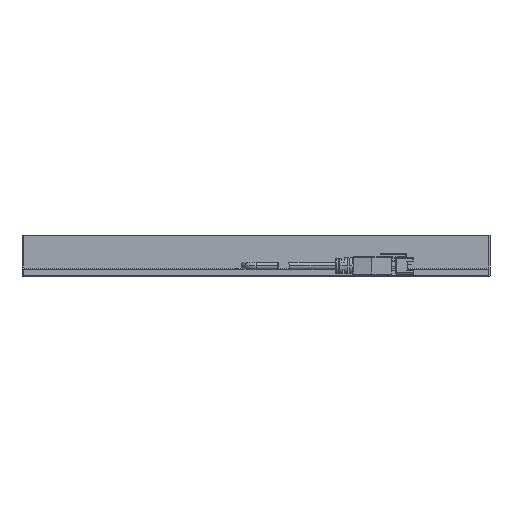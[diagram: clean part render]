
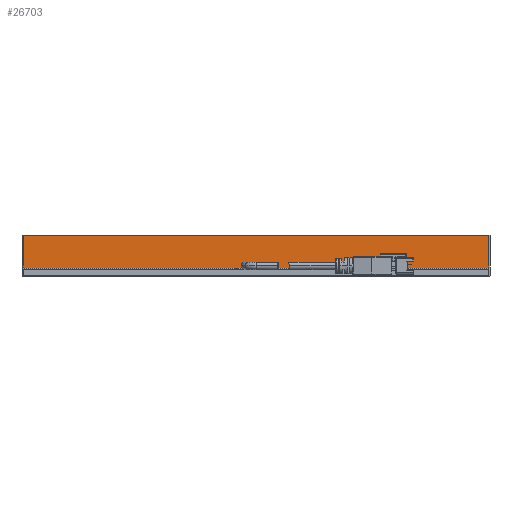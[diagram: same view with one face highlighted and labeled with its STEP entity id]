
A CAD part, front view. The second image highlights one B-rep face of the part: STEP entity #26703.
In plain terms, the highlighted planar face has unit normal (0, -1, 0).
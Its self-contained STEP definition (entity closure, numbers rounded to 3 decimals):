
#24326=DIRECTION('',(1.,0.,0.));
#24327=VECTOR('',#24326,100.75);
#24328=CARTESIAN_POINT('',(-106.5,-107.,0.));
#24329=LINE('',#24328,#24327);
#24376=DIRECTION('',(1.,0.,0.));
#24377=VECTOR('',#24376,110.75);
#24378=CARTESIAN_POINT('',(-4.25,-107.,0.));
#24379=LINE('',#24378,#24377);
#24648=DIRECTION('',(0.,0.,-1.));
#24649=VECTOR('',#24648,15.);
#24650=CARTESIAN_POINT('',(106.5,-107.,15.));
#24651=LINE('',#24650,#24649);
#24652=DIRECTION('',(0.,0.,1.));
#24653=VECTOR('',#24652,1.);
#24654=CARTESIAN_POINT('',(-4.25,-107.,0.));
#24655=LINE('',#24654,#24653);
#24656=CARTESIAN_POINT('',(-5.,-107.,1.));
#24657=DIRECTION('',(0.,-1.,0.));
#24658=DIRECTION('',(1.,0.,0.));
#24659=AXIS2_PLACEMENT_3D('',#24656,#24657,#24658);
#24661=DIRECTION('',(0.,0.,1.));
#24662=VECTOR('',#24661,1.);
#24663=CARTESIAN_POINT('',(-5.75,-107.,0.));
#24664=LINE('',#24663,#24662);
#24665=DIRECTION('',(0.,0.,-1.));
#24666=VECTOR('',#24665,15.);
#24667=CARTESIAN_POINT('',(-106.5,-107.,15.));
#24668=LINE('',#24667,#24666);
#25164=DIRECTION('',(1.,0.,0.));
#25165=VECTOR('',#25164,213.);
#25166=CARTESIAN_POINT('',(-106.5,-107.,15.));
#25167=LINE('',#25166,#25165);
#25808=CARTESIAN_POINT('',(-5.75,-107.,0.));
#25810=VERTEX_POINT('',#25808);
#25812=CARTESIAN_POINT('',(-4.25,-107.,0.));
#25814=VERTEX_POINT('',#25812);
#25816=CARTESIAN_POINT('',(-5.75,-107.,1.));
#25817=VERTEX_POINT('',#25816);
#25818=CARTESIAN_POINT('',(-4.25,-107.,1.));
#25819=VERTEX_POINT('',#25818);
#25945=CARTESIAN_POINT('',(106.5,-107.,0.));
#25947=VERTEX_POINT('',#25945);
#25948=CARTESIAN_POINT('',(106.5,-107.,15.));
#25949=VERTEX_POINT('',#25948);
#25952=CARTESIAN_POINT('',(-106.5,-107.,0.));
#25954=VERTEX_POINT('',#25952);
#25958=CARTESIAN_POINT('',(-106.5,-107.,15.));
#25959=VERTEX_POINT('',#25958);
#26683=CARTESIAN_POINT('',(-107.,-107.,0.));
#26684=DIRECTION('',(0.,-1.,0.));
#26685=DIRECTION('',(1.,0.,0.));
#26686=AXIS2_PLACEMENT_3D('',#26683,#26684,#26685);
#26687=PLANE('',#26686);
#26688=ORIENTED_EDGE('',*,*,#26675,.T.);
#26689=ORIENTED_EDGE('',*,*,#26015,.F.);
#26691=ORIENTED_EDGE('',*,*,#26690,.T.);
#26693=ORIENTED_EDGE('',*,*,#26692,.T.);
#26695=ORIENTED_EDGE('',*,*,#26694,.F.);
#26696=ORIENTED_EDGE('',*,*,#25983,.F.);
#26698=ORIENTED_EDGE('',*,*,#26697,.F.);
#26700=ORIENTED_EDGE('',*,*,#26699,.T.);
#26701=EDGE_LOOP('',(#26688,#26689,#26691,#26693,#26695,#26696,#26698,#26700));
#26702=FACE_OUTER_BOUND('',#26701,.F.);
#26703=ADVANCED_FACE('',(#26702),#26687,.T.);
#24660=CIRCLE('',#24659,0.75);
#25983=EDGE_CURVE('',#25954,#25810,#24329,.T.);
#26015=EDGE_CURVE('',#25814,#25947,#24379,.T.);
#26675=EDGE_CURVE('',#25949,#25947,#24651,.T.);
#26690=EDGE_CURVE('',#25814,#25819,#24655,.T.);
#26692=EDGE_CURVE('',#25819,#25817,#24660,.T.);
#26694=EDGE_CURVE('',#25810,#25817,#24664,.T.);
#26697=EDGE_CURVE('',#25959,#25954,#24668,.T.);
#26699=EDGE_CURVE('',#25959,#25949,#25167,.T.);
